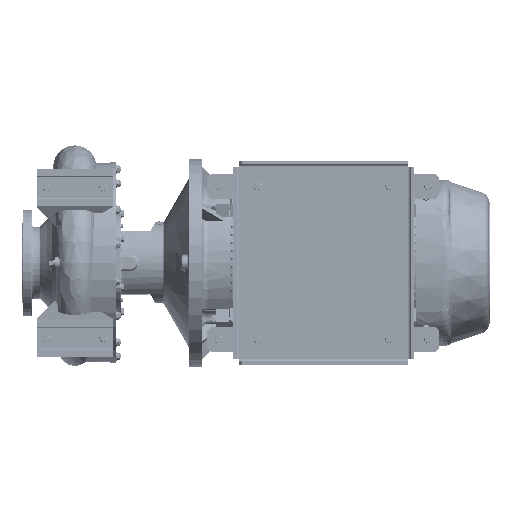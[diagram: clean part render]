
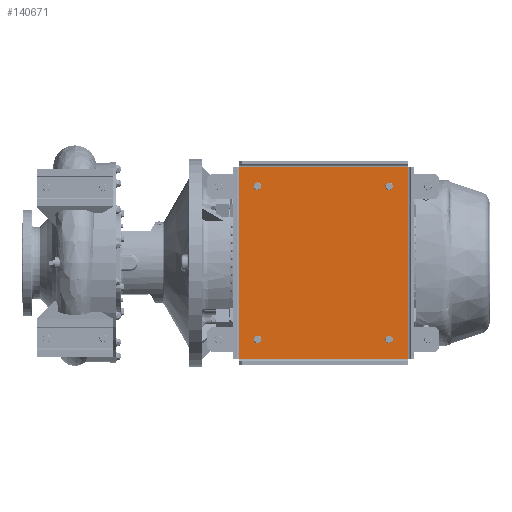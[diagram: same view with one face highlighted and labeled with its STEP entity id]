
A CAD part, front view. The second image highlights one B-rep face of the part: STEP entity #140671.
In plain terms, the highlighted planar face has unit normal (0, -1, 0).
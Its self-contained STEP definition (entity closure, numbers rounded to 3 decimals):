
#2702 = AXIS2_PLACEMENT_3D ( 'NONE', #22278, #9007, #50770 ) ;
#3259 = CARTESIAN_POINT ( 'NONE',  ( 415., 56., -67.5 ) ) ;
#3568 = DIRECTION ( 'NONE',  ( 0., 0., -1. ) ) ;
#6634 = CARTESIAN_POINT ( 'NONE',  ( 66., 56., -473.5 ) ) ;
#7963 = CARTESIAN_POINT ( 'NONE',  ( 66., 56., -67.5 ) ) ;
#8727 = CARTESIAN_POINT ( 'NONE',  ( 66., 56., -463.5 ) ) ;
#9007 = DIRECTION ( 'NONE',  ( 0., 1., 0. ) ) ;
#11973 = ORIENTED_EDGE ( 'NONE', *, *, #176694, .T. ) ;
#14702 = DIRECTION ( 'NONE',  ( 0., 1., 0. ) ) ;
#14897 = CARTESIAN_POINT ( 'NONE',  ( 66., 56., -77.5 ) ) ;
#17832 = CARTESIAN_POINT ( 'NONE',  ( 465., 56., -525. ) ) ;
#20059 = CARTESIAN_POINT ( 'NONE',  ( 66., 56., -483.5 ) ) ;
#20625 = CARTESIAN_POINT ( 'NONE',  ( 16., 56., -525. ) ) ;
#20678 = DIRECTION ( 'NONE',  ( 0., 0., -1. ) ) ;
#22278 = CARTESIAN_POINT ( 'NONE',  ( 415., 56., -67.5 ) ) ;
#23863 = VERTEX_POINT ( 'NONE', #141627 ) ;
#27484 = VERTEX_POINT ( 'NONE', #112346 ) ;
#30144 = EDGE_CURVE ( 'NONE', #74422, #125874, #109929, .T. ) ;
#31276 = VERTEX_POINT ( 'NONE', #111741 ) ;
#32217 = ORIENTED_EDGE ( 'NONE', *, *, #101247, .T. ) ;
#33417 = EDGE_LOOP ( 'NONE', ( #149570, #141139 ) ) ;
#33951 = FACE_BOUND ( 'NONE', #64627, .T. ) ;
#34148 = VECTOR ( 'NONE', #147384, 1000. ) ;
#36883 = EDGE_LOOP ( 'NONE', ( #102072, #98742 ) ) ;
#38906 = CIRCLE ( 'NONE', #150982, 10. ) ;
#40771 = VERTEX_POINT ( 'NONE', #8727 ) ;
#44624 = DIRECTION ( 'NONE',  ( -1., 0., 0. ) ) ;
#47259 = FACE_BOUND ( 'NONE', #33417, .T. ) ;
#48834 = CARTESIAN_POINT ( 'NONE',  ( 465., 56., -16. ) ) ;
#50656 = ORIENTED_EDGE ( 'NONE', *, *, #90771, .T. ) ;
#50770 = DIRECTION ( 'NONE',  ( 0., 0., -1. ) ) ;
#52104 = CARTESIAN_POINT ( 'NONE',  ( 465., 56., -525. ) ) ;
#53606 = DIRECTION ( 'NONE',  ( 0., 1., 0. ) ) ;
#53775 = EDGE_CURVE ( 'NONE', #31276, #159593, #181345, .T. ) ;
#54595 = EDGE_CURVE ( 'NONE', #40771, #130626, #86732, .T. ) ;
#59809 = LINE ( 'NONE', #174500, #95549 ) ;
#62056 = LINE ( 'NONE', #62991, #34148 ) ;
#62273 = EDGE_CURVE ( 'NONE', #147299, #99788, #116443, .T. ) ;
#62906 = CIRCLE ( 'NONE', #156823, 10. ) ;
#62991 = CARTESIAN_POINT ( 'NONE',  ( 465., 56., -16. ) ) ;
#64627 = EDGE_LOOP ( 'NONE', ( #148620, #183530 ) ) ;
#65816 = CARTESIAN_POINT ( 'NONE',  ( 415., 56., -77.5 ) ) ;
#69882 = CARTESIAN_POINT ( 'NONE',  ( 415., 56., -473.5 ) ) ;
#70210 = EDGE_LOOP ( 'NONE', ( #32217, #82833, #11973, #87630 ) ) ;
#72798 = CARTESIAN_POINT ( 'NONE',  ( 66., 56., -473.5 ) ) ;
#74422 = VERTEX_POINT ( 'NONE', #159901 ) ;
#79833 = CIRCLE ( 'NONE', #89025, 10. ) ;
#80871 = EDGE_LOOP ( 'NONE', ( #182434, #50656 ) ) ;
#82097 = EDGE_CURVE ( 'NONE', #125160, #23863, #59809, .T. ) ;
#82833 = ORIENTED_EDGE ( 'NONE', *, *, #82097, .T. ) ;
#83870 = DIRECTION ( 'NONE',  ( 0., 0., -1. ) ) ;
#86732 = CIRCLE ( 'NONE', #120061, 10. ) ;
#87630 = ORIENTED_EDGE ( 'NONE', *, *, #30144, .T. ) ;
#89025 = AXIS2_PLACEMENT_3D ( 'NONE', #3259, #14702, #147379 ) ;
#90771 = EDGE_CURVE ( 'NONE', #99788, #147299, #111794, .T. ) ;
#90830 = FACE_BOUND ( 'NONE', #36883, .T. ) ;
#92910 = DIRECTION ( 'NONE',  ( 0., 1., 0. ) ) ;
#94558 = EDGE_CURVE ( 'NONE', #118245, #27484, #38906, .T. ) ;
#95549 = VECTOR ( 'NONE', #44624, 1000. ) ;
#97598 = VECTOR ( 'NONE', #182896, 1000. ) ;
#98742 = ORIENTED_EDGE ( 'NONE', *, *, #124852, .T. ) ;
#99788 = VERTEX_POINT ( 'NONE', #14897 ) ;
#101247 = EDGE_CURVE ( 'NONE', #125874, #125160, #62056, .T. ) ;
#102072 = ORIENTED_EDGE ( 'NONE', *, *, #54595, .T. ) ;
#106564 = DIRECTION ( 'NONE',  ( 0., 0., -1. ) ) ;
#109929 = LINE ( 'NONE', #52104, #97598 ) ;
#110880 = DIRECTION ( 'NONE',  ( 0., 0., -1. ) ) ;
#111741 = CARTESIAN_POINT ( 'NONE',  ( 415., 56., -57.5 ) ) ;
#111794 = CIRCLE ( 'NONE', #142191, 10. ) ;
#112346 = CARTESIAN_POINT ( 'NONE',  ( 415., 56., -463.5 ) ) ;
#112931 = CARTESIAN_POINT ( 'NONE',  ( 415., 56., -473.5 ) ) ;
#116443 = CIRCLE ( 'NONE', #185972, 10. ) ;
#118245 = VERTEX_POINT ( 'NONE', #126610 ) ;
#120061 = AXIS2_PLACEMENT_3D ( 'NONE', #6634, #92910, #110880 ) ;
#121195 = PLANE ( 'NONE',  #147139 ) ;
#124012 = CARTESIAN_POINT ( 'NONE',  ( 66., 56., -57.5 ) ) ;
#124852 = EDGE_CURVE ( 'NONE', #130626, #40771, #164377, .T. ) ;
#125160 = VERTEX_POINT ( 'NONE', #48834 ) ;
#125874 = VERTEX_POINT ( 'NONE', #17832 ) ;
#126610 = CARTESIAN_POINT ( 'NONE',  ( 415., 56., -483.5 ) ) ;
#127713 = DIRECTION ( 'NONE',  ( 0., 1., 0. ) ) ;
#129018 = DIRECTION ( 'NONE',  ( 0., 0., -1. ) ) ;
#129941 = DIRECTION ( 'NONE',  ( 0., 1., 0. ) ) ;
#130626 = VERTEX_POINT ( 'NONE', #20059 ) ;
#131597 = DIRECTION ( 'NONE',  ( 0., 1., 0. ) ) ;
#134447 = FACE_OUTER_BOUND ( 'NONE', #70210, .T. ) ;
#135321 = DIRECTION ( 'NONE',  ( 0., 0., -1. ) ) ;
#137250 = FACE_BOUND ( 'NONE', #80871, .T. ) ;
#138284 = VECTOR ( 'NONE', #135321, 1000. ) ;
#140671 = ADVANCED_FACE ( 'NONE', ( #134447, #33951, #90830, #137250, #47259 ), #121195, .T. ) ;
#141139 = ORIENTED_EDGE ( 'NONE', *, *, #169841, .T. ) ;
#141627 = CARTESIAN_POINT ( 'NONE',  ( 16., 56., -16. ) ) ;
#142191 = AXIS2_PLACEMENT_3D ( 'NONE', #184385, #53606, #83870 ) ;
#147139 = AXIS2_PLACEMENT_3D ( 'NONE', #150565, #149621, #20678 ) ;
#147299 = VERTEX_POINT ( 'NONE', #124012 ) ;
#147379 = DIRECTION ( 'NONE',  ( 0., 0., -1. ) ) ;
#147384 = DIRECTION ( 'NONE',  ( 0., 0., 1. ) ) ;
#148620 = ORIENTED_EDGE ( 'NONE', *, *, #178109, .T. ) ;
#149570 = ORIENTED_EDGE ( 'NONE', *, *, #53775, .T. ) ;
#149621 = DIRECTION ( 'NONE',  ( 0., -1., 0. ) ) ;
#150565 = CARTESIAN_POINT ( 'NONE',  ( 0., 56., 0. ) ) ;
#150982 = AXIS2_PLACEMENT_3D ( 'NONE', #69882, #127713, #170369 ) ;
#156823 = AXIS2_PLACEMENT_3D ( 'NONE', #112931, #129941, #129018 ) ;
#159593 = VERTEX_POINT ( 'NONE', #65816 ) ;
#159901 = CARTESIAN_POINT ( 'NONE',  ( 16., 56., -525. ) ) ;
#164377 = CIRCLE ( 'NONE', #182499, 10. ) ;
#165668 = LINE ( 'NONE', #20625, #138284 ) ;
#169841 = EDGE_CURVE ( 'NONE', #159593, #31276, #79833, .T. ) ;
#170369 = DIRECTION ( 'NONE',  ( 0., 0., -1. ) ) ;
#174500 = CARTESIAN_POINT ( 'NONE',  ( 16., 56., -16. ) ) ;
#176694 = EDGE_CURVE ( 'NONE', #23863, #74422, #165668, .T. ) ;
#178109 = EDGE_CURVE ( 'NONE', #27484, #118245, #62906, .T. ) ;
#181345 = CIRCLE ( 'NONE', #2702, 10. ) ;
#182347 = DIRECTION ( 'NONE',  ( 0., 1., 0. ) ) ;
#182434 = ORIENTED_EDGE ( 'NONE', *, *, #62273, .T. ) ;
#182499 = AXIS2_PLACEMENT_3D ( 'NONE', #72798, #131597, #3568 ) ;
#182896 = DIRECTION ( 'NONE',  ( 1., 0., 0. ) ) ;
#183530 = ORIENTED_EDGE ( 'NONE', *, *, #94558, .T. ) ;
#184385 = CARTESIAN_POINT ( 'NONE',  ( 66., 56., -67.5 ) ) ;
#185972 = AXIS2_PLACEMENT_3D ( 'NONE', #7963, #182347, #106564 ) ;
